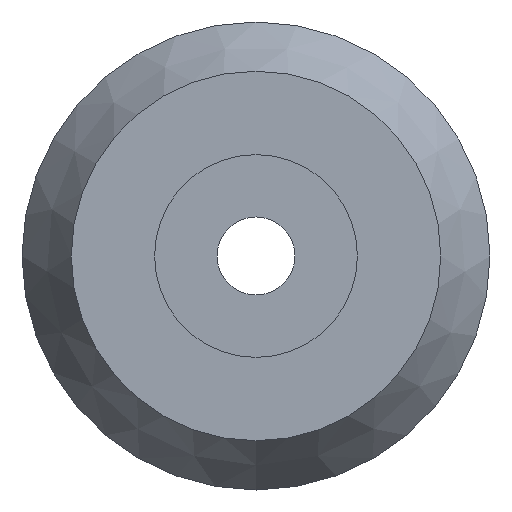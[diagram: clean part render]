
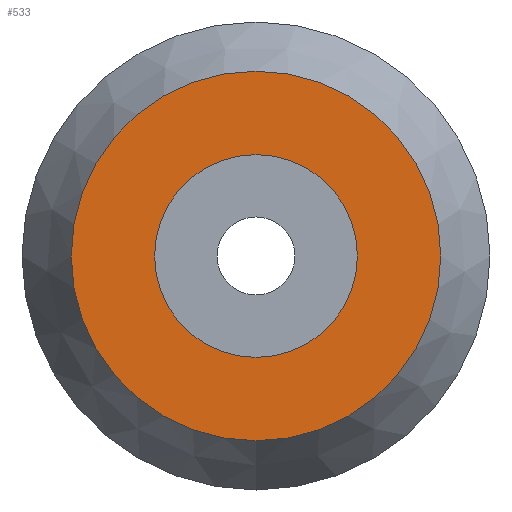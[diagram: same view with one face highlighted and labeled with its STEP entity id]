
A CAD part, front view. The second image highlights one B-rep face of the part: STEP entity #533.
In plain terms, the highlighted planar face has unit normal (0, -1, 0).
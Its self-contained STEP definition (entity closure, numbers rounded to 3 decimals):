
#28 = CARTESIAN_POINT ( 'NONE',  ( 278.356, 116.478, 0. ) ) ;
#57 = EDGE_CURVE ( 'NONE', #717, #717, #66, .T. ) ;
#66 = CIRCLE ( 'NONE', #400, 10.925 ) ;
#69 = ORIENTED_EDGE ( 'NONE', *, *, #405, .T. ) ;
#132 = CARTESIAN_POINT ( 'NONE',  ( 278.356, 116.478, -10.925 ) ) ;
#217 = PLANE ( 'NONE',  #1152 ) ;
#318 = DIRECTION ( 'NONE',  ( 0., -1., 0. ) ) ;
#393 = CIRCLE ( 'NONE', #1113, 19.9 ) ;
#400 = AXIS2_PLACEMENT_3D ( 'NONE', #28, #318, #612 ) ;
#405 = EDGE_CURVE ( 'NONE', #822, #822, #393, .T. ) ;
#408 = DIRECTION ( 'NONE',  ( 0., 0., -1. ) ) ;
#417 = EDGE_LOOP ( 'NONE', ( #69 ) ) ;
#420 = FACE_BOUND ( 'NONE', #461, .T. ) ;
#461 = EDGE_LOOP ( 'NONE', ( #1189 ) ) ;
#468 = DIRECTION ( 'NONE',  ( 0., 0., -1. ) ) ;
#497 = DIRECTION ( 'NONE',  ( 0., -1., 0. ) ) ;
#533 = ADVANCED_FACE ( 'NONE', ( #420, #803 ), #217, .T. ) ;
#612 = DIRECTION ( 'NONE',  ( 0., 0., -1. ) ) ;
#692 = CARTESIAN_POINT ( 'NONE',  ( 278.356, 116.478, 0. ) ) ;
#717 = VERTEX_POINT ( 'NONE', #132 ) ;
#803 = FACE_OUTER_BOUND ( 'NONE', #417, .T. ) ;
#822 = VERTEX_POINT ( 'NONE', #1098 ) ;
#992 = CARTESIAN_POINT ( 'NONE',  ( 267.431, 116.478, 0. ) ) ;
#1098 = CARTESIAN_POINT ( 'NONE',  ( 278.356, 116.478, -19.9 ) ) ;
#1113 = AXIS2_PLACEMENT_3D ( 'NONE', #692, #497, #468 ) ;
#1152 = AXIS2_PLACEMENT_3D ( 'NONE', #992, #1200, #408 ) ;
#1189 = ORIENTED_EDGE ( 'NONE', *, *, #57, .F. ) ;
#1200 = DIRECTION ( 'NONE',  ( 0., -1., 0. ) ) ;
